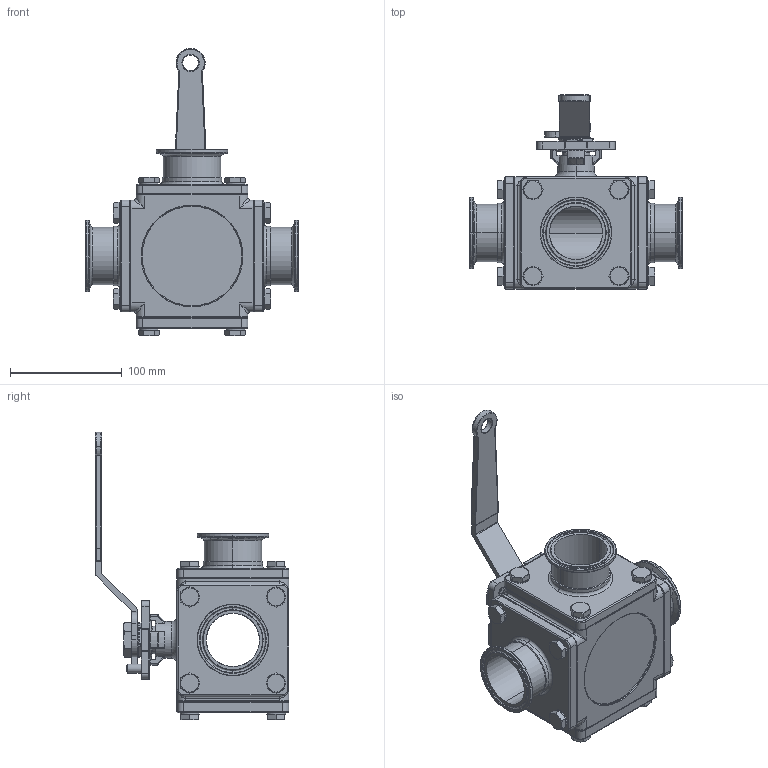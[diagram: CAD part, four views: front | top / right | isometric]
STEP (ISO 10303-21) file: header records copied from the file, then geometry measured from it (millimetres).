
FILE_DESCRIPTION (( 'STEP AP203' ), '1' );
FILE_NAME ('EG93CCC-62.0-T.STEP', '2019-07-02T02:27:01', ( '' ), ( '' ), 'SwSTEP 2.0', 'SolidWorks 2014', '' );
FILE_SCHEMA (( 'CONFIG_CONTROL_DESIGN' ));
Length unit declared in the file: millimetre
Products named in the file (24): 14.HANDLE1.5-2.0; 2.3WAY-CAP-C-2.0; 15.SPRING WASHER2.0-2.5; 12.3WAY-NUT1.5-2.0; 4.SEAT1-2.0; 7.O-RING1.5-2.0; 3.3WAY-BALL-2.0-T; EG93CCC-62.0-T; 16.BOLT2.0; 1.3WAY-BODY2.0; 8.STEM PACKING1.5-2.0; 6.THRUST WASHER1.5-2.0; 9.RING1.5-2.0; 5.GASKET2.0; 21.PLAIN WASHER1.5-2.0; 17.LOCKING TAB1.5-2.0; 19.3WAY-CAP2.0; 10.BEVEL WASHER1.5-2.0; 22.SEAT-L-2.0; 22.SEAT-R-2.0; 13.STEM1.5-2.0; 11.STOP PIN1.5-2.0; 20.SEAT BACK2.0; 18.THINNER NUT1.5-2.0
Assembly tree (58 placements, depth 2):
  EG93CCC-62.0-T
    1.3WAY-BODY2.0
    13.STEM1.5-2.0
    7.O-RING1.5-2.0
    6.THRUST WASHER1.5-2.0
    22.SEAT-L-2.0  x2
    22.SEAT-R-2.0
    4.SEAT1-2.0
    20.SEAT BACK2.0
    19.3WAY-CAP2.0
    2.3WAY-CAP-C-2.0  x3
    5.GASKET2.0  x2
    15.SPRING WASHER2.0-2.5  x16
    16.BOLT2.0  x16
    8.STEM PACKING1.5-2.0
    9.RING1.5-2.0
    10.BEVEL WASHER1.5-2.0  x2
    17.LOCKING TAB1.5-2.0
    18.THINNER NUT1.5-2.0
    21.PLAIN WASHER1.5-2.0
    14.HANDLE1.5-2.0
    12.3WAY-NUT1.5-2.0
    11.STOP PIN1.5-2.0
    3.3WAY-BALL-2.0-T
Bounding box: 190 x 173.1 x 256.7 mm (x, y, z)
Volume: 1400982.6 mm3; surface area: 408149.6 mm2
Topology: 59 solids, 59 shells, 1543 faces, 3463 edges, 2032 vertices
Faces by surface type: cylinder 564, plane 399, cone 252, torus 231, sphere 58, bspline 39
Entity records: 33591 total; most frequent: CARTESIAN_POINT 7234, DIRECTION 5338, ORIENTED_EDGE 4480, AXIS2_PLACEMENT_3D 2270, EDGE_CURVE 2240, VERTEX_POINT 1322, CIRCLE 1259, EDGE_LOOP 1098
